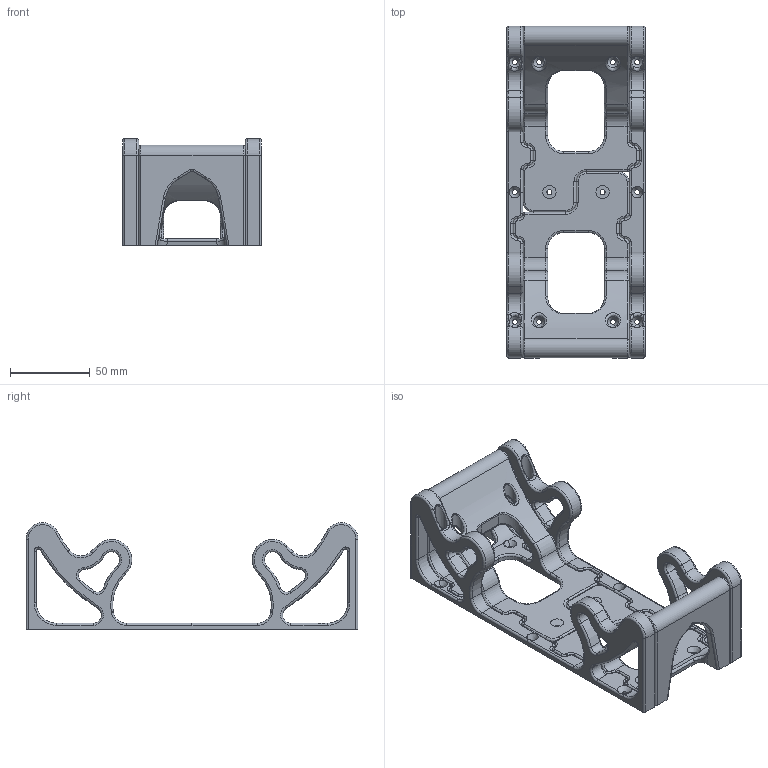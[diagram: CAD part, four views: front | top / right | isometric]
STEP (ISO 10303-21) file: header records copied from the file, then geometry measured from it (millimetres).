
FILE_DESCRIPTION(/* description */ (''),/* implementation_level */ '2;1');
FILE_NAME(/* name */ '2025_11_29_petesquared_filament_rack.step',/* time_stamp */ '2025-11-29T19:47:27-08:00',/* author */ (''),/* organization */ (''),/* preprocessor_version */ 'ST-DEVELOPER v20.1',/* originating_system */ 'Autodesk Translation Framework v14.21.0.0',/* authorisation */ '');
FILE_SCHEMA (('AUTOMOTIVE_DESIGN { 1 0 10303 214 3 1 1 }'));
Length unit declared in the file: inch
Products named in the file (3): 3dprinter_stand_filament_rack; cubby_filament; filament_rack
Assembly tree (2 placements, depth 3):
  3dprinter_stand_filament_rack
    cubby_filament
      filament_rack
Bounding box: 87 x 208.28 x 66.89 mm (x, y, z)
Volume: 205977.4 mm3; surface area: 90980.8 mm2
Topology: 4 solids, 4 shells, 775 faces, 1961 edges, 1157 vertices
Faces by surface type: cylinder 330, torus 267, plane 98, bspline 66, cone 12, sphere 2
Full cylindrical faces by diameter (mm): 3.2 x10, 7.112 x8
Entity records: 28000 total; most frequent: CARTESIAN_POINT 8941, DIRECTION 4330, ORIENTED_EDGE 3912, EDGE_CURVE 1956, AXIS2_PLACEMENT_3D 1843, VERTEX_POINT 1157, CIRCLE 1112, EDGE_LOOP 815
